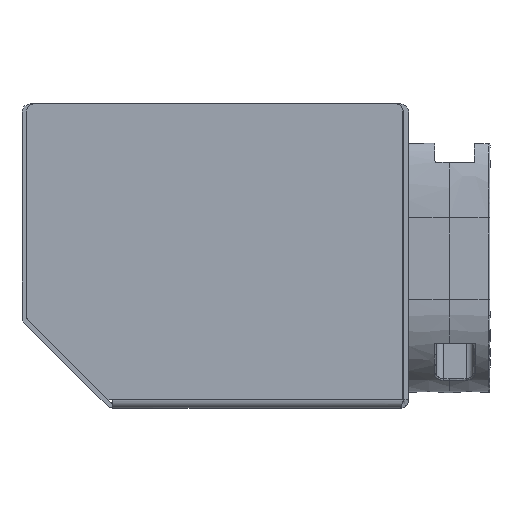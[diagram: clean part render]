
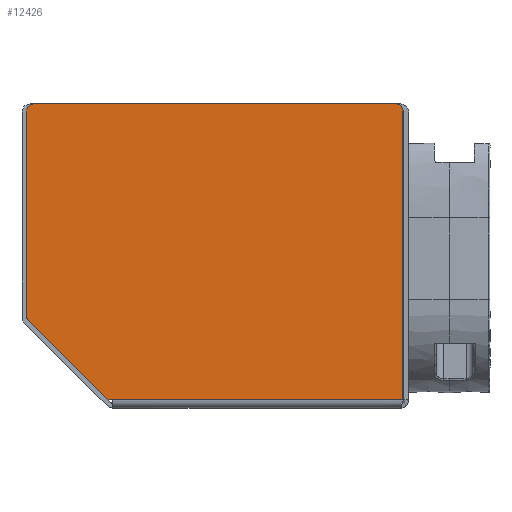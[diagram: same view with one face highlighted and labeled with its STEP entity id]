
A CAD part, left-side view. The second image highlights one B-rep face of the part: STEP entity #12426.
In plain terms, the highlighted planar face has unit normal (-1, 0, 0).
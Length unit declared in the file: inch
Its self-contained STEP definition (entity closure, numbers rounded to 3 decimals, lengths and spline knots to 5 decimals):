
#12042 = EDGE_CURVE ( 'NONE', #12175, #12063, #18501, .T. ) ;
#12063 = VERTEX_POINT ( 'NONE', #18536 ) ;
#12074 = VERTEX_POINT ( 'NONE', #18526 ) ;
#12076 = EDGE_CURVE ( 'NONE', #12063, #12074, #18525, .T. ) ;
#12105 = VERTEX_POINT ( 'NONE', #18559 ) ;
#12117 = EDGE_CURVE ( 'NONE', #12218, #12105, #18610, .T. ) ;
#12136 = EDGE_CURVE ( 'NONE', #12137, #12162, #18589, .T. ) ;
#12137 = VERTEX_POINT ( 'NONE', #18645 ) ;
#12142 = VERTEX_POINT ( 'NONE', #18640 ) ;
#12152 = EDGE_CURVE ( 'NONE', #12142, #12175, #18633, .T. ) ;
#12161 = EDGE_CURVE ( 'NONE', #12162, #12142, #18623, .T. ) ;
#12162 = VERTEX_POINT ( 'NONE', #18619 ) ;
#12175 = VERTEX_POINT ( 'NONE', #18669 ) ;
#12218 = VERTEX_POINT ( 'NONE', #18702 ) ;
#12247 = EDGE_CURVE ( 'NONE', #12105, #12137, #18737, .T. ) ;
#12390 = ORIENTED_EDGE ( 'NONE', *, *, #12136, .T. ) ;
#12391 = ORIENTED_EDGE ( 'NONE', *, *, #12161, .T. ) ;
#12393 = ORIENTED_EDGE ( 'NONE', *, *, #12152, .T. ) ;
#12395 = ORIENTED_EDGE ( 'NONE', *, *, #12042, .T. ) ;
#12397 = ORIENTED_EDGE ( 'NONE', *, *, #12076, .T. ) ;
#12398 = ORIENTED_EDGE ( 'NONE', *, *, #12399, .F. ) ;
#12399 = EDGE_CURVE ( 'NONE', #12400, #12074, #18857, .T. ) ;
#12400 = VERTEX_POINT ( 'NONE', #18853 ) ;
#12401 = ORIENTED_EDGE ( 'NONE', *, *, #12403, .T. ) ;
#12403 = EDGE_CURVE ( 'NONE', #12400, #12218, #18852, .T. ) ;
#12405 = ORIENTED_EDGE ( 'NONE', *, *, #12117, .T. ) ;
#12426 = ADVANCED_FACE ( 'NONE', ( #18893 ), #18892, .F. ) ;
#12427 = EDGE_LOOP ( 'NONE', ( #12428, #12390, #12391, #12393, #12395, #12397, #12398, #12401, #12405 ) ) ;
#12428 = ORIENTED_EDGE ( 'NONE', *, *, #12247, .T. ) ;
#18498 = DIRECTION ( 'NONE',  ( 0., -0.707, -0.707 ) ) ;
#18499 = VECTOR ( 'NONE', #18498, 39.37008 ) ;
#18500 = CARTESIAN_POINT ( 'NONE',  ( -0.96, 1.94563, 0.69861 ) ) ;
#18501 = LINE ( 'NONE', #18500, #18499 ) ;
#18523 = VECTOR ( 'NONE', #18585, 39.37008 ) ;
#18524 = CARTESIAN_POINT ( 'NONE',  ( -0.96, 1.27601, 0.029 ) ) ;
#18525 = LINE ( 'NONE', #18524, #18523 ) ;
#18526 = CARTESIAN_POINT ( 'NONE',  ( -0.96, 1.235, 0.029 ) ) ;
#18536 = CARTESIAN_POINT ( 'NONE',  ( -0.96, 1.27601, 0.029 ) ) ;
#18559 = CARTESIAN_POINT ( 'NONE',  ( -0.96, -1.12793, 2.5 ) ) ;
#18585 = DIRECTION ( 'NONE',  ( 0., -1., 0. ) ) ;
#18586 = DIRECTION ( 'NONE',  ( -1., 0., 0. ) ) ;
#18587 = CARTESIAN_POINT ( 'NONE',  ( -0.96, 1.89412, 2.44 ) ) ;
#18588 = AXIS2_PLACEMENT_3D ( 'NONE', #18587, #18586, #18646 ) ;
#18589 = CIRCLE ( 'NONE', #18588, 0.06 ) ;
#18606 = DIRECTION ( 'NONE',  ( 0., 0., -1. ) ) ;
#18607 = DIRECTION ( 'NONE',  ( -1., 0., 0. ) ) ;
#18608 = CARTESIAN_POINT ( 'NONE',  ( -0.96, -1.12793, 2.44 ) ) ;
#18609 = AXIS2_PLACEMENT_3D ( 'NONE', #18608, #18607, #18606 ) ;
#18610 = CIRCLE ( 'NONE', #18609, 0.06 ) ;
#18619 = CARTESIAN_POINT ( 'NONE',  ( -0.96, 1.95412, 2.44 ) ) ;
#18620 = DIRECTION ( 'NONE',  ( 0., 0., -1. ) ) ;
#18621 = VECTOR ( 'NONE', #18620, 39.37008 ) ;
#18622 = CARTESIAN_POINT ( 'NONE',  ( -0.96, 1.95412, 2.5 ) ) ;
#18623 = LINE ( 'NONE', #18622, #18621 ) ;
#18630 = DIRECTION ( 'NONE',  ( 0., 0., 1. ) ) ;
#18631 = DIRECTION ( 'NONE',  ( -1., 0., 0. ) ) ;
#18632 = AXIS2_PLACEMENT_3D ( 'NONE', #18639, #18631, #18630 ) ;
#18633 = CIRCLE ( 'NONE', #18632, 0.029 ) ;
#18639 = CARTESIAN_POINT ( 'NONE',  ( -0.96, 1.92512, 0.71912 ) ) ;
#18640 = CARTESIAN_POINT ( 'NONE',  ( -0.96, 1.95412, 0.71912 ) ) ;
#18645 = CARTESIAN_POINT ( 'NONE',  ( -0.96, 1.89412, 2.5 ) ) ;
#18646 = DIRECTION ( 'NONE',  ( 0., 0., -1. ) ) ;
#18669 = CARTESIAN_POINT ( 'NONE',  ( -0.96, 1.94563, 0.69861 ) ) ;
#18702 = CARTESIAN_POINT ( 'NONE',  ( -0.96, -1.18793, 2.44 ) ) ;
#18734 = DIRECTION ( 'NONE',  ( 0., 1., 0. ) ) ;
#18735 = VECTOR ( 'NONE', #18734, 39.37008 ) ;
#18736 = CARTESIAN_POINT ( 'NONE',  ( -0.96, 1.235, 2.5 ) ) ;
#18737 = LINE ( 'NONE', #18736, #18735 ) ;
#18849 = DIRECTION ( 'NONE',  ( 0., 0., 1. ) ) ;
#18850 = VECTOR ( 'NONE', #18849, 39.37008 ) ;
#18851 = CARTESIAN_POINT ( 'NONE',  ( -0.96, -1.18793, 2.5 ) ) ;
#18852 = LINE ( 'NONE', #18851, #18850 ) ;
#18853 = CARTESIAN_POINT ( 'NONE',  ( -0.96, -1.18793, 0.029 ) ) ;
#18854 = DIRECTION ( 'NONE',  ( 0., 1., 0. ) ) ;
#18855 = VECTOR ( 'NONE', #18854, 39.37008 ) ;
#18856 = CARTESIAN_POINT ( 'NONE',  ( -0.96, 1.235, 0.029 ) ) ;
#18857 = LINE ( 'NONE', #18856, #18855 ) ;
#18887 = DIRECTION ( 'NONE',  ( 0., 0., -1. ) ) ;
#18888 = DIRECTION ( 'NONE',  ( 1., 0., 0. ) ) ;
#18889 = CARTESIAN_POINT ( 'NONE',  ( -0.96, 1.235, 2.5 ) ) ;
#18891 = AXIS2_PLACEMENT_3D ( 'NONE', #18889, #18888, #18887 ) ;
#18892 = PLANE ( 'NONE',  #18891 ) ;
#18893 = FACE_OUTER_BOUND ( 'NONE', #12427, .T. ) ;
